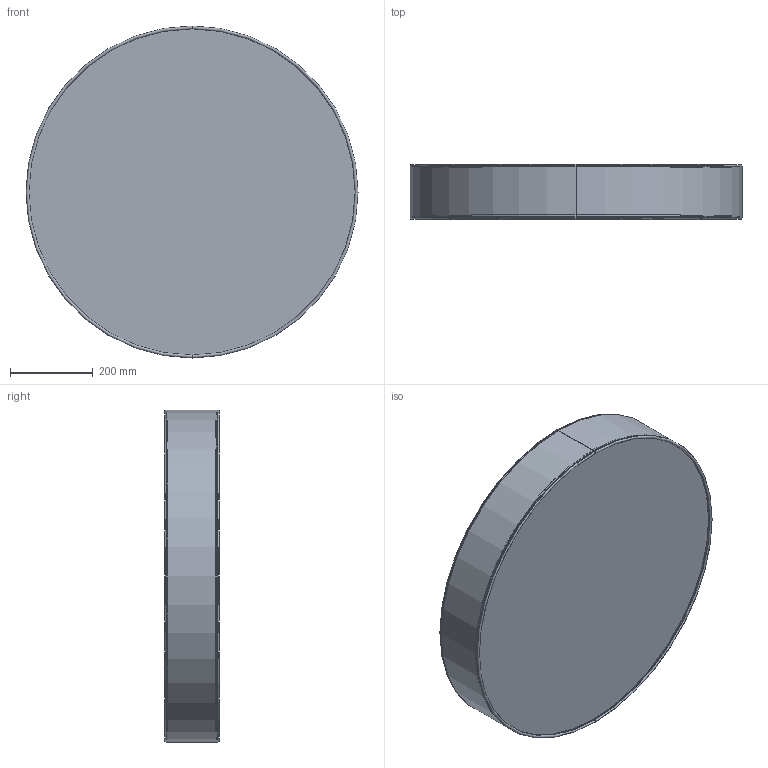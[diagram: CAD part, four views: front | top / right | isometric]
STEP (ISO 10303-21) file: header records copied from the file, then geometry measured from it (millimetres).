
FILE_DESCRIPTION (( 'STEP AP203' ), '1' );
FILE_NAME ('PLTES080COXXXXX-PER 3D.STEP', '2025-06-25T10:29:34', ( '' ), ( '' ), 'SwSTEP 2.0', 'SolidWorks 2024', '' );
FILE_SCHEMA (( 'CONFIG_CONTROL_DESIGN' ));
Length unit declared in the file: millimetre
Products named in the file (4): TSPTESSYC80DWBC; PSPPLTESSY80H13COT; PLTES080COXXXXX-PER 3D; RIVESTIMENTO PARALUME Ø800
Assembly tree (3 placements, depth 3):
  PLTES080COXXXXX-PER 3D
    PSPPLTESSY80H13COT
      RIVESTIMENTO PARALUME Ø800
    TSPTESSYC80DWBC
Bounding box: 802 x 132 x 802 mm (x, y, z)
Volume: 621734.4 mm3; surface area: 2469364 mm2
Topology: 3 solids, 3 shells, 46 faces, 90 edges, 48 vertices
Faces by surface type: torus 28, cylinder 8, cone 6, plane 4
Entity records: 1606 total; most frequent: DIRECTION 272, CARTESIAN_POINT 191, ORIENTED_EDGE 180, AXIS2_PLACEMENT_3D 129, EDGE_CURVE 90, CIRCLE 76, EDGE_LOOP 48, VERTEX_POINT 48
